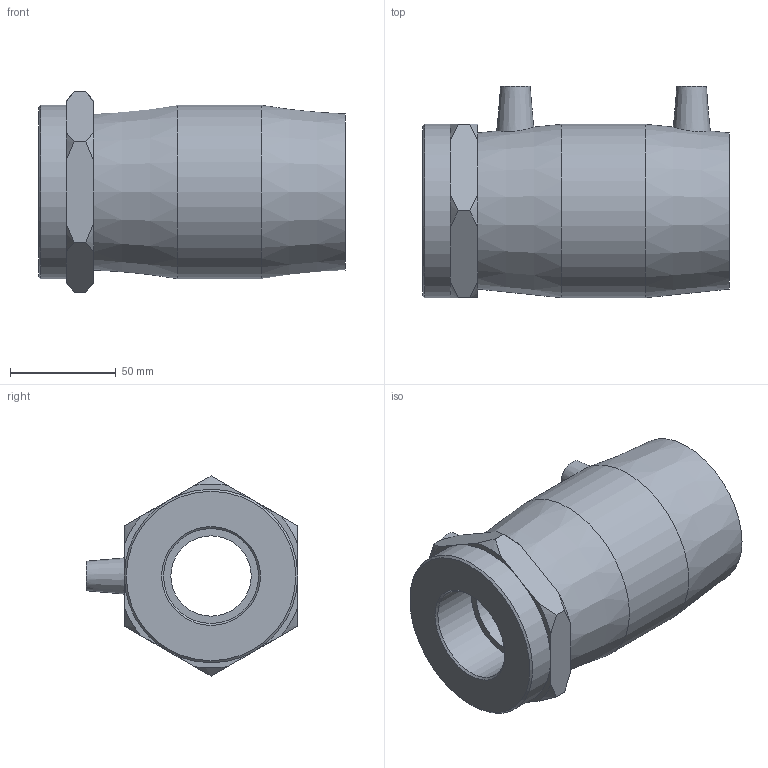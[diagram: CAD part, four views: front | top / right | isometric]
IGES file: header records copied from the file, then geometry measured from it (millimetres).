
Global section: file name: 493104063015.ipt; native system: Autodesk Inventor 2015; preprocessor: unknown; author: KIM; date: 20200202.122448; units: millimetre
Bounding box: 145 x 100 x 94.69 mm (x, y, z)
Volume: 444502.9 mm3; surface area: 71452.2 mm2
Topology: 1 solids, 1 shells, 54 faces, 130 edges, 86 vertices
Faces by surface type: plane 24, cone 17, revolution 9, cylinder 4
Full cylindrical faces by diameter (mm): 4 x2, 82 x2
